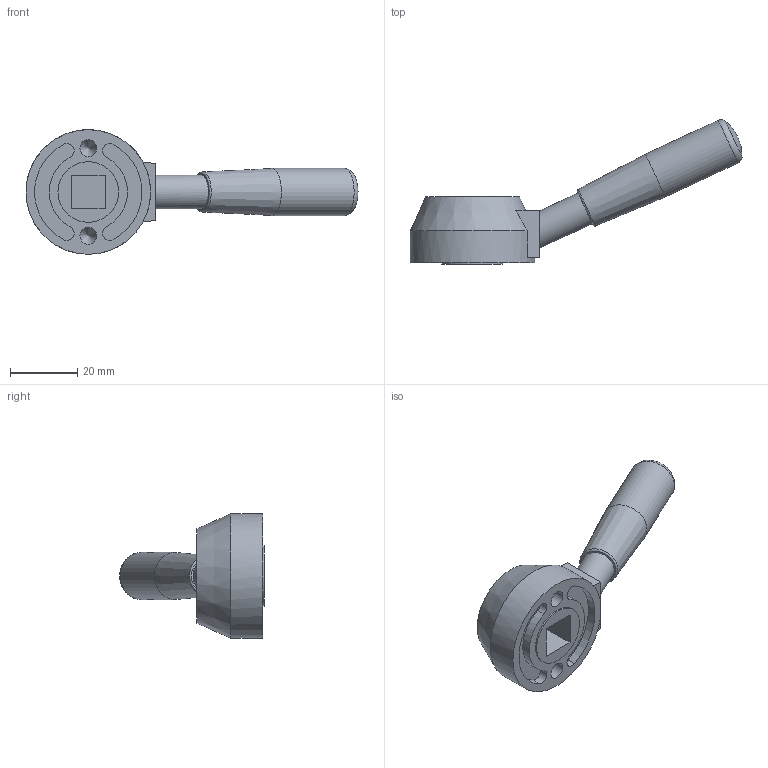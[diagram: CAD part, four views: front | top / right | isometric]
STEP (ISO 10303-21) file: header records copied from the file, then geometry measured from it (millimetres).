
FILE_DESCRIPTION( ( 'STEP AP203' ), '1' );
FILE_NAME( 'C:/Temp/Ganter_Step_05_03_2020/data/2_1/gn_512/gn_512_v/Control lever GN 512-37-V10.stp', '2020-03-05T11:51:42', ( 'License CC BY-ND 4.0' ), ( 'CADENAS' ), ' ', 'PARTsolutions', ' ' );
FILE_SCHEMA( ( 'CONFIG_CONTROL_DESIGN' ) );
Length unit declared in the file: millimetre
Products named in the file (1): _Control lever GN 512-37-V10
Bounding box: 98.59 x 42.95 x 37 mm (x, y, z)
Volume: 24437.7 mm3; surface area: 8293.2 mm2
Topology: 1 solids, 1 shells, 39 faces, 88 edges, 57 vertices
Faces by surface type: plane 17, cylinder 15, cone 4, torus 2, sphere 1
Full cylindrical faces by diameter (mm): 5 x2, 10 x1, 14 x1, 18 x1, 21 x1, 37 x1
Entity records: 1032 total; most frequent: DIRECTION 182, CARTESIAN_POINT 168, ORIENTED_EDGE 136, AXIS2_PLACEMENT_3D 76, EDGE_CURVE 68, EDGE_LOOP 59, VERTEX_POINT 54, FACE_OUTER_BOUND 48
